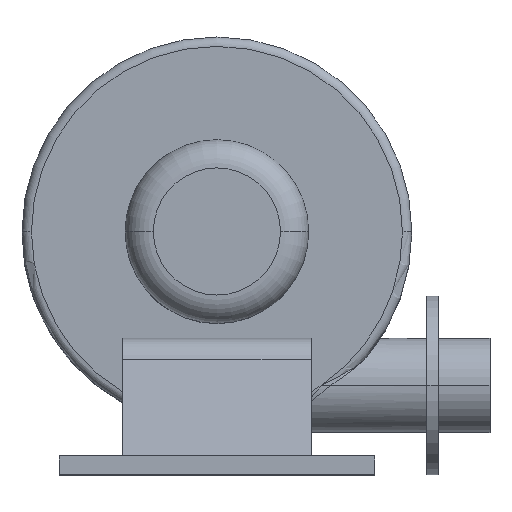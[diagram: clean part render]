
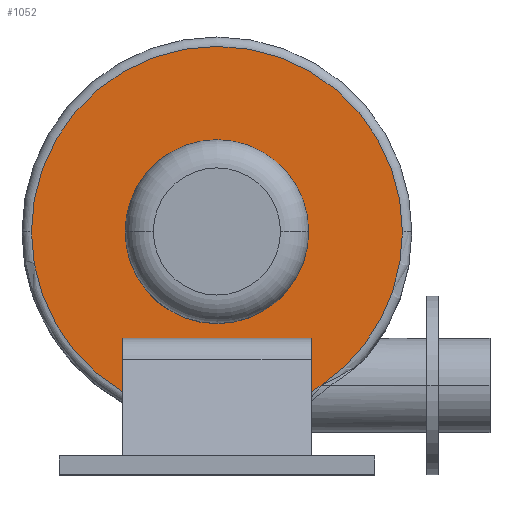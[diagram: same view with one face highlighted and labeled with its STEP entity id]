
A CAD part, top view. The second image highlights one B-rep face of the part: STEP entity #1052.
In plain terms, the highlighted planar face has unit normal (0, 0, 1).
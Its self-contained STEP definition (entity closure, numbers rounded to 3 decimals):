
#2 = DIRECTION ( 'NONE',  ( 1., 0., 0. ) ) ;
#16 = CARTESIAN_POINT ( 'NONE',  ( 0., 0., 50. ) ) ;
#55 = CARTESIAN_POINT ( 'NONE',  ( 100., -169.732, 50. ) ) ;
#118 = CARTESIAN_POINT ( 'NONE',  ( 100., -113., 50. ) ) ;
#133 = DIRECTION ( 'NONE',  ( 0., 0., 1. ) ) ;
#139 = CARTESIAN_POINT ( 'NONE',  ( 0., 0., 50. ) ) ;
#180 = DIRECTION ( 'NONE',  ( 1., 0., 0. ) ) ;
#183 = DIRECTION ( 'NONE',  ( 0., 0., 1. ) ) ;
#185 = CIRCLE ( 'NONE', #1563, 197. ) ;
#210 = CIRCLE ( 'NONE', #1599, 97.5 ) ;
#235 = EDGE_CURVE ( 'NONE', #2018, #1396, #236, .T. ) ;
#236 = CIRCLE ( 'NONE', #1606, 197. ) ;
#267 = EDGE_CURVE ( 'NONE', #1066, #1868, #210, .T. ) ;
#280 = CARTESIAN_POINT ( 'NONE',  ( 197., 0., 50. ) ) ;
#285 = DIRECTION ( 'NONE',  ( 0., 0., 1. ) ) ;
#289 = AXIS2_PLACEMENT_3D ( 'NONE', #1242, #183, #1412 ) ;
#293 = VERTEX_POINT ( 'NONE', #280 ) ;
#316 = VERTEX_POINT ( 'NONE', #118 ) ;
#396 = EDGE_CURVE ( 'NONE', #2151, #293, #185, .T. ) ;
#403 = CARTESIAN_POINT ( 'NONE',  ( 0., -113., 50. ) ) ;
#481 = CARTESIAN_POINT ( 'NONE',  ( 100., 0., 50. ) ) ;
#498 = AXIS2_PLACEMENT_3D ( 'NONE', #16, #1229, #180 ) ;
#516 = CARTESIAN_POINT ( 'NONE',  ( -197., 0., 50. ) ) ;
#572 = DIRECTION ( 'NONE',  ( 1., 0., 0. ) ) ;
#595 = AXIS2_PLACEMENT_3D ( 'NONE', #922, #2144, #1112 ) ;
#597 = CARTESIAN_POINT ( 'NONE',  ( -100., -169.732, 50. ) ) ;
#626 = CARTESIAN_POINT ( 'NONE',  ( 0., 0., 50. ) ) ;
#652 = DIRECTION ( 'NONE',  ( 1., 0., 0. ) ) ;
#659 = DIRECTION ( 'NONE',  ( 0., 0., 1. ) ) ;
#669 = EDGE_LOOP ( 'NONE', ( #942, #945, #948, #952, #954, #957, #962 ) ) ;
#670 = CARTESIAN_POINT ( 'NONE',  ( 0., 0., 50. ) ) ;
#716 = VERTEX_POINT ( 'NONE', #55 ) ;
#737 = CARTESIAN_POINT ( 'NONE',  ( 110.635, -163., 50. ) ) ;
#804 = VECTOR ( 'NONE', #2050, 1000. ) ;
#825 = LINE ( 'NONE', #481, #804 ) ;
#852 = LINE ( 'NONE', #403, #2138 ) ;
#922 = CARTESIAN_POINT ( 'NONE',  ( 0., 0., 50. ) ) ;
#942 = ORIENTED_EDGE ( 'NONE', *, *, #1847, .F. ) ;
#945 = ORIENTED_EDGE ( 'NONE', *, *, #1308, .T. ) ;
#948 = ORIENTED_EDGE ( 'NONE', *, *, #396, .T. ) ;
#952 = ORIENTED_EDGE ( 'NONE', *, *, #2001, .T. ) ;
#954 = ORIENTED_EDGE ( 'NONE', *, *, #235, .T. ) ;
#957 = ORIENTED_EDGE ( 'NONE', *, *, #1718, .T. ) ;
#962 = ORIENTED_EDGE ( 'NONE', *, *, #2121, .T. ) ;
#973 = ORIENTED_EDGE ( 'NONE', *, *, #267, .F. ) ;
#975 = ORIENTED_EDGE ( 'NONE', *, *, #1676, .F. ) ;
#978 = CIRCLE ( 'NONE', #498, 97.5 ) ;
#1020 = CARTESIAN_POINT ( 'NONE',  ( -100., 0., 50. ) ) ;
#1052 = ADVANCED_FACE ( 'NONE', ( #1694, #1400 ), #2032, .T. ) ;
#1066 = VERTEX_POINT ( 'NONE', #1453 ) ;
#1112 = DIRECTION ( 'NONE',  ( 1., 0., 0. ) ) ;
#1138 = CIRCLE ( 'NONE', #595, 197. ) ;
#1225 = CIRCLE ( 'NONE', #289, 197. ) ;
#1229 = DIRECTION ( 'NONE',  ( 0., 0., 1. ) ) ;
#1242 = CARTESIAN_POINT ( 'NONE',  ( 0., 0., 50. ) ) ;
#1277 = AXIS2_PLACEMENT_3D ( 'NONE', #626, #285, #2173 ) ;
#1308 = EDGE_CURVE ( 'NONE', #716, #2151, #1138, .T. ) ;
#1396 = VERTEX_POINT ( 'NONE', #597 ) ;
#1400 = FACE_BOUND ( 'NONE', #1881, .T. ) ;
#1411 = DIRECTION ( 'NONE',  ( 0., 1., 0. ) ) ;
#1412 = DIRECTION ( 'NONE',  ( 1., 0., 0. ) ) ;
#1421 = VERTEX_POINT ( 'NONE', #1501 ) ;
#1453 = CARTESIAN_POINT ( 'NONE',  ( -97.5, 0., 50. ) ) ;
#1501 = CARTESIAN_POINT ( 'NONE',  ( -100., -113., 50. ) ) ;
#1563 = AXIS2_PLACEMENT_3D ( 'NONE', #670, #659, #652 ) ;
#1599 = AXIS2_PLACEMENT_3D ( 'NONE', #2054, #2082, #1749 ) ;
#1606 = AXIS2_PLACEMENT_3D ( 'NONE', #139, #133, #2 ) ;
#1676 = EDGE_CURVE ( 'NONE', #1868, #1066, #978, .T. ) ;
#1694 = FACE_OUTER_BOUND ( 'NONE', #669, .T. ) ;
#1718 = EDGE_CURVE ( 'NONE', #1396, #1421, #1981, .T. ) ;
#1749 = DIRECTION ( 'NONE',  ( 1., 0., 0. ) ) ;
#1847 = EDGE_CURVE ( 'NONE', #716, #316, #825, .T. ) ;
#1868 = VERTEX_POINT ( 'NONE', #2192 ) ;
#1881 = EDGE_LOOP ( 'NONE', ( #973, #975 ) ) ;
#1932 = VECTOR ( 'NONE', #1411, 1000. ) ;
#1981 = LINE ( 'NONE', #1020, #1932 ) ;
#2001 = EDGE_CURVE ( 'NONE', #293, #2018, #1225, .T. ) ;
#2018 = VERTEX_POINT ( 'NONE', #516 ) ;
#2032 = PLANE ( 'NONE',  #1277 ) ;
#2050 = DIRECTION ( 'NONE',  ( 0., 1., 0. ) ) ;
#2054 = CARTESIAN_POINT ( 'NONE',  ( 0., 0., 50. ) ) ;
#2082 = DIRECTION ( 'NONE',  ( 0., 0., 1. ) ) ;
#2121 = EDGE_CURVE ( 'NONE', #1421, #316, #852, .T. ) ;
#2138 = VECTOR ( 'NONE', #572, 1000. ) ;
#2144 = DIRECTION ( 'NONE',  ( 0., 0., 1. ) ) ;
#2151 = VERTEX_POINT ( 'NONE', #737 ) ;
#2173 = DIRECTION ( 'NONE',  ( 1., 0., 0. ) ) ;
#2192 = CARTESIAN_POINT ( 'NONE',  ( 97.5, 0., 50. ) ) ;
